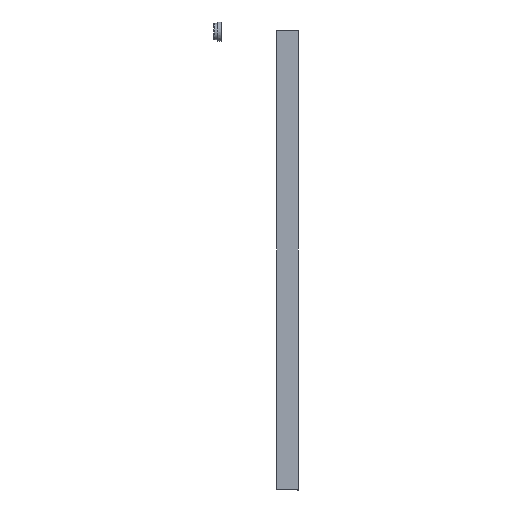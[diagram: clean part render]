
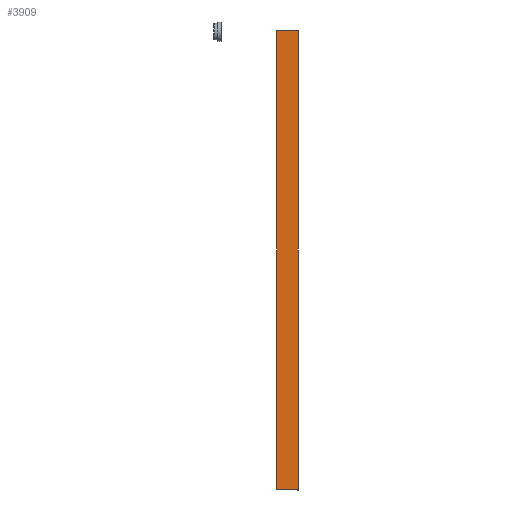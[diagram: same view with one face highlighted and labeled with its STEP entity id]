
A CAD part, left-side view. The second image highlights one B-rep face of the part: STEP entity #3909.
In plain terms, the highlighted planar face has unit normal (-1, 0, 0).
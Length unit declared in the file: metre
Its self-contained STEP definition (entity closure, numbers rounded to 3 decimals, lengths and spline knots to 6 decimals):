
#503=FACE_OUTER_BOUND('',#746,.T.);
#746=EDGE_LOOP('',(#3172,#3173,#3174,#3175));
#1090=LINE('',#6312,#1457);
#1112=LINE('',#6405,#1479);
#1114=LINE('',#6412,#1481);
#1115=LINE('',#6413,#1482);
#1457=VECTOR('',#5126,0.1094);
#1479=VECTOR('',#5194,0.1094);
#1481=VECTOR('',#5202,2.368);
#1482=VECTOR('',#5203,2.368);
#1810=VERTEX_POINT('',#6309);
#1811=VERTEX_POINT('',#6311);
#1846=VERTEX_POINT('',#6402);
#1847=VERTEX_POINT('',#6404);
#2280=EDGE_CURVE('',#1810,#1811,#1090,.T.);
#2324=EDGE_CURVE('',#1847,#1846,#1112,.T.);
#2328=EDGE_CURVE('',#1810,#1847,#1114,.T.);
#2329=EDGE_CURVE('',#1846,#1811,#1115,.F.);
#3172=ORIENTED_EDGE('',*,*,#2280,.F.);
#3173=ORIENTED_EDGE('',*,*,#2328,.T.);
#3174=ORIENTED_EDGE('',*,*,#2324,.T.);
#3175=ORIENTED_EDGE('',*,*,#2329,.T.);
#3722=PLANE('',#4302);
#3909=ADVANCED_FACE('',(#503),#3722,.F.);
#4302=AXIS2_PLACEMENT_3D('',#6411,#5200,#5201);
#5126=DIRECTION('',(0.,1.,0.));
#5194=DIRECTION('',(0.,1.,0.));
#5200=DIRECTION('center_axis',(1.,0.,0.));
#5201=DIRECTION('ref_axis',(0.,0.,-1.));
#5202=DIRECTION('',(0.,0.,1.));
#5203=DIRECTION('',(0.,0.,1.));
#6309=CARTESIAN_POINT('',(-0.0225,0.0003,-1.184));
#6311=CARTESIAN_POINT('',(-0.0225,0.1097,-1.184));
#6312=CARTESIAN_POINT('',(-0.0225,0.0003,-1.184));
#6402=CARTESIAN_POINT('',(-0.0225,0.1097,1.184));
#6404=CARTESIAN_POINT('',(-0.0225,0.0003,1.184));
#6405=CARTESIAN_POINT('',(-0.0225,0.0003,1.184));
#6411=CARTESIAN_POINT('Origin',(-0.0225,0.,-0.592));
#6412=CARTESIAN_POINT('',(-0.0225,0.0003,-1.184));
#6413=CARTESIAN_POINT('',(-0.0225,0.1097,-1.184));
